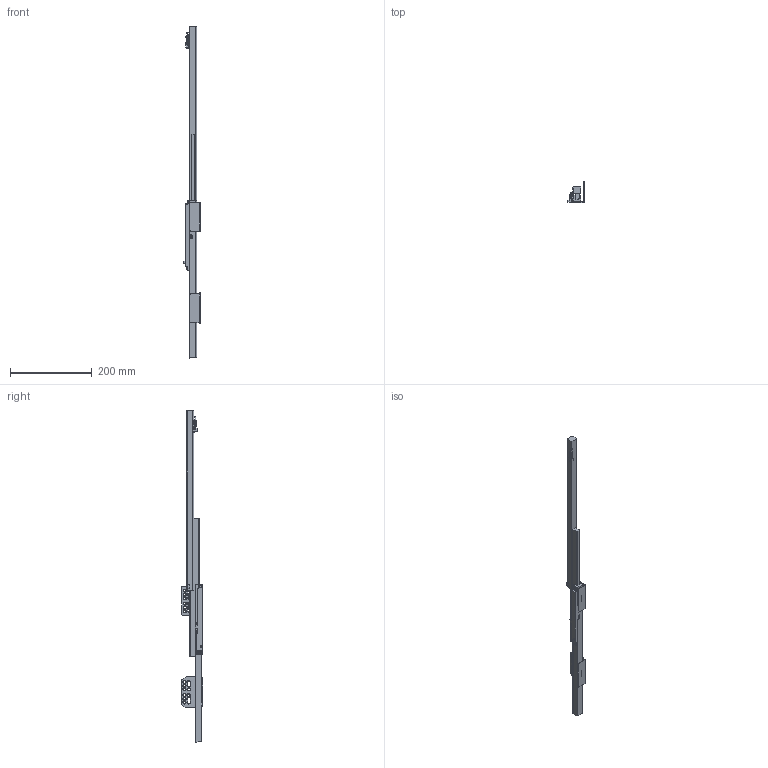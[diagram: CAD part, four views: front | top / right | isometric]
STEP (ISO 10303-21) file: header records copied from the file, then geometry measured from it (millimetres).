
FILE_DESCRIPTION (( 'STEP AP203' ), '1' );
FILE_NAME ('HB015004GX-R(打开).STEP', '2025-05-13T06:26:38', ( '微软用户' ), ( '微软中国' ), 'SwSTEP 2.0', 'SolidWorks 2021', '' );
FILE_SCHEMA (( 'CONFIG_CONTROL_DESIGN' ));
Length unit declared in the file: millimetre
Products named in the file (4): HB415004H-1-R(湖羲); 瑰貌寢OFH01-GG-GB.STEP; HB015004GX-R(湖羲); M覃誹儂凳R
Assembly tree (3 placements, depth 2):
  HB015004GX-R(湖羲)
    HB415004H-1-R(湖羲)
    瑰貌寢OFH01-GG-GB.STEP
    M覃誹儂凳R
Bounding box: 40.83 x 53 x 814 mm (x, y, z)
Volume: 332508.6 mm3; surface area: 92497.8 mm2
Topology: 3 solids, 30 shells, 1460 faces, 3848 edges, 2437 vertices
Faces by surface type: plane 494, cylinder 488, bspline 268, torus 158, cone 44, sphere 8
Entity records: 82735 total; most frequent: CARTESIAN_POINT 48364, ORIENTED_EDGE 7640, DIRECTION 6431, EDGE_CURVE 3820, VERTEX_POINT 2435, AXIS2_PLACEMENT_3D 2323, LINE 1785, VECTOR 1785
